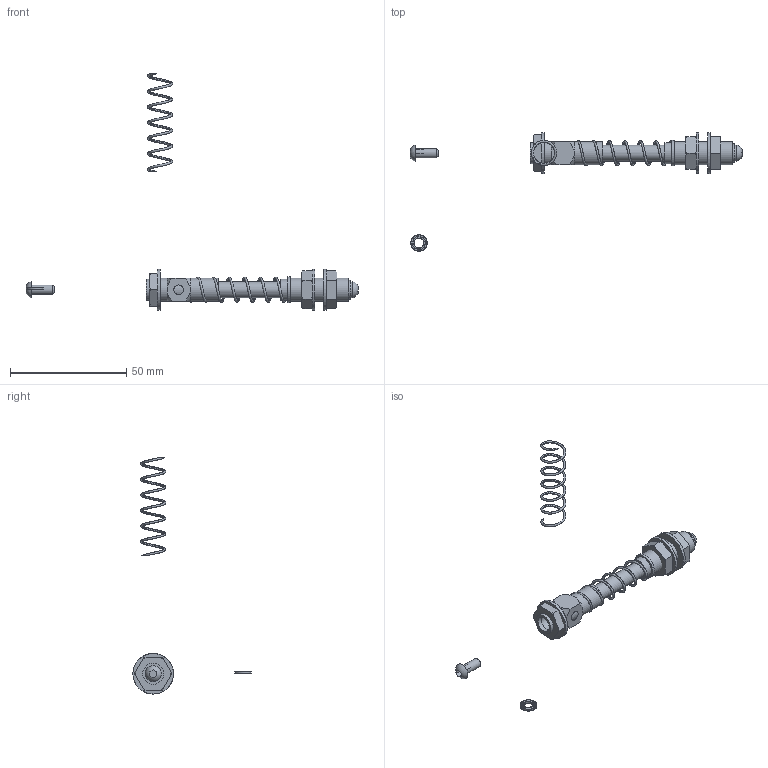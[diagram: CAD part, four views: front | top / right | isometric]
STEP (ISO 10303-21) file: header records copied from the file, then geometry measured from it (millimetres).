
FILE_DESCRIPTION( ( 'STEP AP214' ), '1' );
FILE_NAME( 'C:/Users/Segreteria/Desktop/CA.GGDG.10050530.stp', '2014-07-04T09:00:48', ( ' ' ), ( ' ' ), 'XStep 1.0', ' ', ' ' );
FILE_SCHEMA( ( 'CONFIG_CONTROL_DESIGN) ( )' ) );
Length unit declared in the file: metre
Products named in the file (12): Assem1; M.10X47; GGD.10.05.05; GGD.10.30; GGD.10.30.01; R.4; R.4.SCH; V.TBCE4X10.BUTT; GGDG.10.2; 05.01.005.06; R.10.SCH
Bounding box: 142.84 x 50.89 x 101.6 mm (x, y, z)
Volume: 12140.2 mm3; surface area: 14917.1 mm2
Topology: 21 solids, 23 shells, 595 faces, 1599 edges, 1058 vertices
Faces by surface type: plane 480, cone 56, cylinder 53, bspline 2, sphere 2, torus 2
Full cylindrical faces by diameter (mm): 3.242 x2, 4 x4, 4.134 x6, 4.3 x4, 5 x2, 6.8 x2, 6.84 x2, 7 x4, 8 x2, 8.917 x3, 9 x6, 10 x4, 11 x6, 17.5 x4
Entity records: 10159 total; most frequent: CARTESIAN_POINT 2623, DIRECTION 1556, ORIENTED_EDGE 1466, EDGE_CURVE 733, AXIS2_PLACEMENT_3D 569, VERTEX_POINT 503, LINE 418, VECTOR 418
